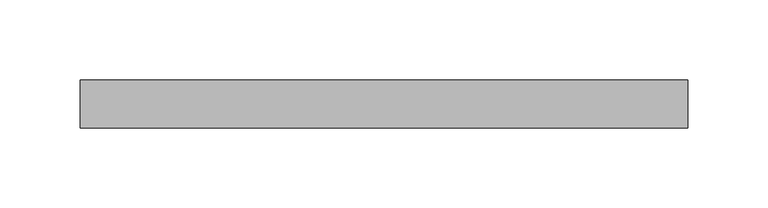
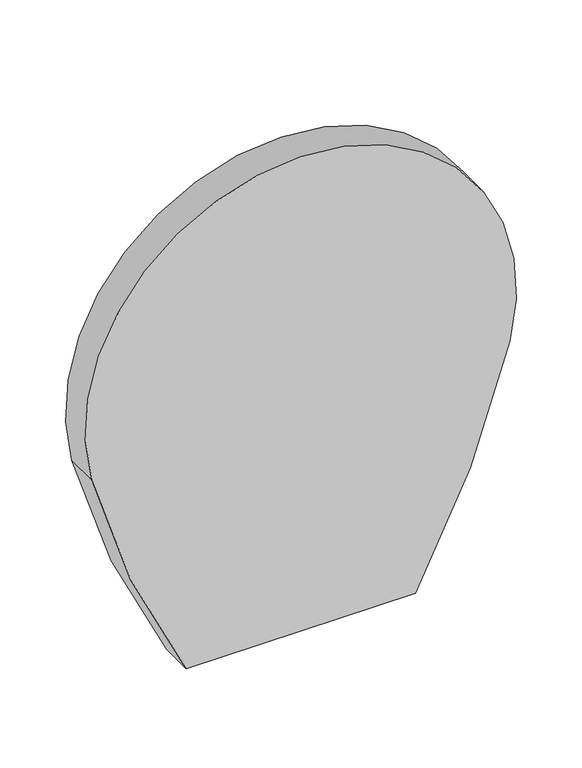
"""IFC4 building model written with IfcOpenShell, lengths in millimetres: flow terminal geometry, Deca_Shared_Assento_P.909 : Assento plástico com Microban - Ébano EB95."""

from ifc_helpers import new_model, si_unit, point, frame, frame_2d, origin, place, context, project, spatial, polyline, circle_curve, trimmed, segment, composite_curve, outline, extrude, source, transform, mapped, element, save


def flow_terminal_8aa249bb(model_context):
    return source(origin(), model_context, "Body", "SweptSolid", [
        extrude(outline(composite_curve([segment(trimmed(circle_curve(frame_2d((400.6010316, -591.180351)), 799.6891514), [point((0.0, 100.9334781))], [point((205.0546512, 184.2320245))], False, "CARTESIAN"), True, "CONTINUOUS"), segment(trimmed(circle_curve(frame_2d((251.5149692, 0.0)), 190.0), [point((205.0546512, 184.2320245))], [point((205.0546512, -184.2320245))], False, "CARTESIAN"), True, "CONTINUOUS"), segment(trimmed(circle_curve(frame_2d((400.6010316, 591.180351)), 799.6891514), [point((205.0546512, -184.2320245))], [point((0.0, -100.9334781))], False, "CARTESIAN"), True, "CONTINUOUS"), segment(polyline([(0.0, -100.9334781), (0.0, 100.9334781)]), True, "CONTINUOUS")], self_intersect=False)), frame((0.0, 0.0, 0.0), z_axis=(0.0, 1.0, 0.0), x_axis=(0.0, 0.0, 1.0)), (0.0, 0.0, 1.0), 30.0),
    ])


if __name__ == "__main__":
    model = new_model("IFC4")
    model_context = context("Model", 3, world=origin())
    ifc_project = project(units=[si_unit("LENGTHUNIT", "METRE", prefix="MILLI")], contexts=[model_context])
    site = spatial("IfcSite", under=ifc_project)
    building = spatial("IfcBuilding", under=site)
    placement = place(None, origin())
    flow_terminal_shape = flow_terminal_8aa249bb(model_context)
    element("IfcFlowTerminal", 1, ObjectType="Deca_Shared_Assento_P.909 : Assento plástico com Microban - Ébano EB95", at=placement, inside=building, context=model_context, shape_type="MappedRepresentation", body=[
        mapped(flow_terminal_shape, transform((0.0, 0.0, 0.0), x_axis=(1.0, 0.0, 0.0), y_axis=(0.0, 1.0, 0.0), z_axis=(0.0, 0.0, 1.0))),
    ])
    save(model, "model.ifc")
